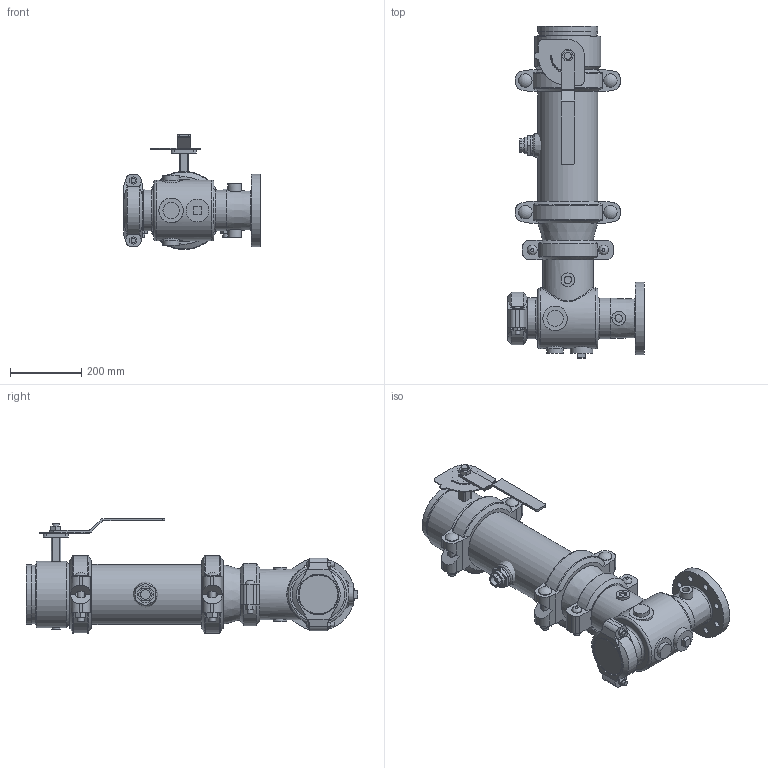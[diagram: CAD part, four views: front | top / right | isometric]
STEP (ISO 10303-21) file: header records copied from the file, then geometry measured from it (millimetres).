
FILE_DESCRIPTION(/* description */ ('VIC SVI PUMP DROP HORZ S/391 (OGSxFLG)','CAx-IF Rec.Pracs.---Representation and Presentation of Product Manufacturing Information (PMI)---4.0---2014-10-13'),/* implementation_level */ '2;1');
FILE_NAME(/* name */ 'C:\Users\kkamble\AppData\Roaming\Autodesk\ApplicationPlugins\Back Up\Victaulic_PN10_Series 391 (OGSxFLG)\Victaulic_PN10_Series 391 (OGSxFLG)_06.0x03.0 (150x80).stp',/* time_stamp */ '2020-11-26T23:44:28+05:00',/* author */ ('kkamble'),/* organization */ ('Victaulic'),/* preprocessor_version */ 'ST-DEVELOPER v17.2',/* originating_system */ 'Autodesk Inventor 2019',/* authorisation */ '');
FILE_SCHEMA (('AP242_MANAGED_MODEL_BASED_3D_ENGINEERING_MIM_LF { 1 0 10303 442 1 1 4 }'));
Length unit declared in the file: inch
Products named in the file (11): 391-06.0x03.0; 731D-05.0x03.0; 731D-05.0x03.0_1; 731D-05.0; 07-04.0; 050-06.0x05.0; 075-05.0; PIPE-06.0; 761-06.0; 177N-06.0; 923-04.0x0.75
Assembly tree (11 placements, depth 3):
  391-06.0x03.0
    731D-05.0x03.0
      731D-05.0x03.0_1
      731D-05.0
      07-04.0
    050-06.0x05.0
    075-05.0
    PIPE-06.0
    177N-06.0  x2
    761-06.0
    923-04.0x0.75
Bounding box: 381 x 929.89 x 322.07 mm (x, y, z)
Volume: 10362286.5 mm3; surface area: 1758126.3 mm2
Topology: 10 solids, 15 shells, 605 faces, 1553 edges, 1052 vertices
Faces by surface type: plane 340, cylinder 214, cone 25, torus 17, sphere 6, bspline 3
Full cylindrical faces by diameter (mm): 4.826 x10, 8.636 x4, 12.7 x4, 15.875 x4, 17.424 x2, 18.009 x8, 19.05 x6, 20.955 x4, 22.225 x2, 22.86 x1, 26.67 x1, 37.694 x4, 38.1 x4, 45.72 x3, 45.974 x2, 55.118 x1, 55.626 x1, 63.5 x1, 76.2 x1, 84.074 x1, 90.678 x1, 96.52 x1, 107.95 x1, 110.084 x2, 113.03 x1, 114.3 x5, 121.412 x1, 128.194 x1, 134.95 x1, 137.033 x2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
Entity records: 18013 total; most frequent: CARTESIAN_POINT 3985, DIRECTION 2878, ORIENTED_EDGE 2626, EDGE_CURVE 1313, AXIS2_PLACEMENT_3D 1099, VERTEX_POINT 893, LINE 680, VECTOR 680
